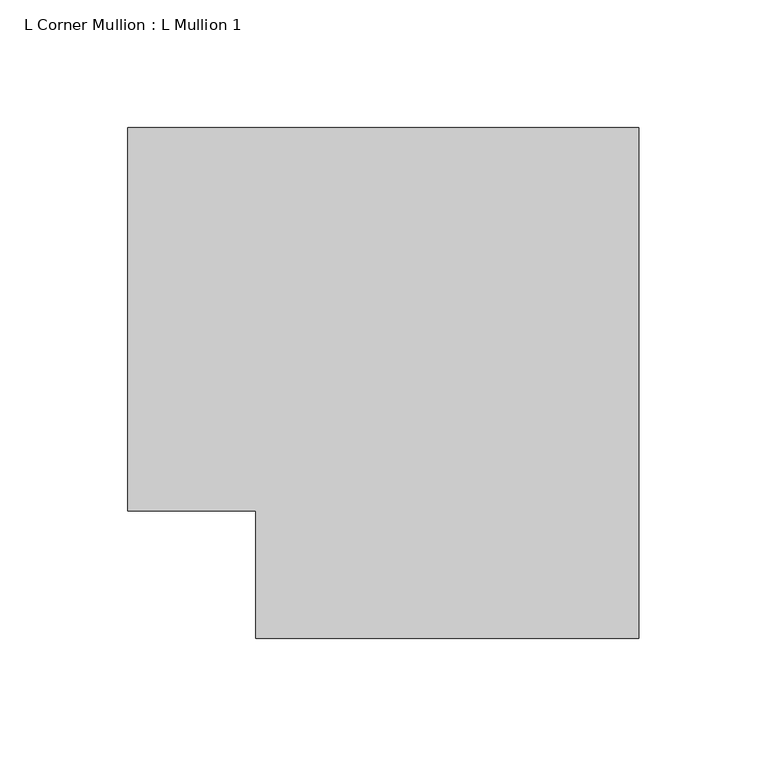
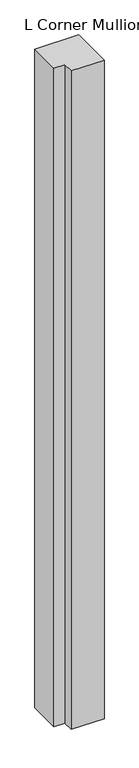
"""IFC4 building model written with IfcOpenShell, lengths in millimetres: member geometry, L Corner Mullion : L Mullion 1."""

from ifc_helpers import new_model, si_unit, frame, origin, place, context, project, spatial, polyline, outline, extrude, source, transform, mapped, element, save


def l_corner_mullion_l_mullion_1_19861a08(model_context):
    return source(origin(), model_context, "Body", "SweptSolid", [
        extrude(outline(polyline([(-75.0, -125.0), (-75.0, -75.0), (-125.0, -75.0), (-125.0, 75.0), (75.0, 75.0), (75.0, -125.0), (-75.0, -125.0)])), frame((0.0, 0.0, -3175.0), z_axis=(0.0, 0.0, 1.0), x_axis=(1.0, 0.0, 0.0)), (0.0, 0.0, 1.0), 3175.0),
    ])


if __name__ == "__main__":
    model = new_model("IFC4")
    model_context = context("Model", 3, world=origin())
    ifc_project = project(units=[si_unit("LENGTHUNIT", "METRE", prefix="MILLI")], contexts=[model_context])
    site = spatial("IfcSite", under=ifc_project)
    building = spatial("IfcBuilding", under=site)
    placement = place(None, origin())
    l_corner_mullion_l_mullion_1_shape = l_corner_mullion_l_mullion_1_19861a08(model_context)
    element("IfcMember", 1, ObjectType="L Corner Mullion : L Mullion 1", at=placement, inside=building, context=model_context, shape_type="MappedRepresentation", body=[
        mapped(l_corner_mullion_l_mullion_1_shape, transform((0.0, 0.0, 0.0), x_axis=(1.0, 0.0, 0.0), y_axis=(0.0, 1.0, 0.0), z_axis=(0.0, 0.0, 1.0))),
    ])
    save(model, "model.ifc")
